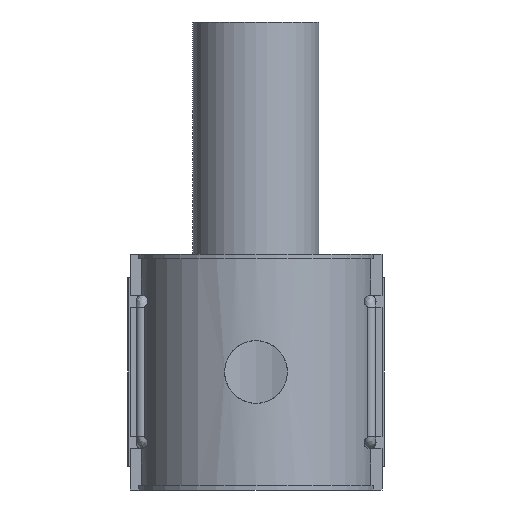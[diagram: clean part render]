
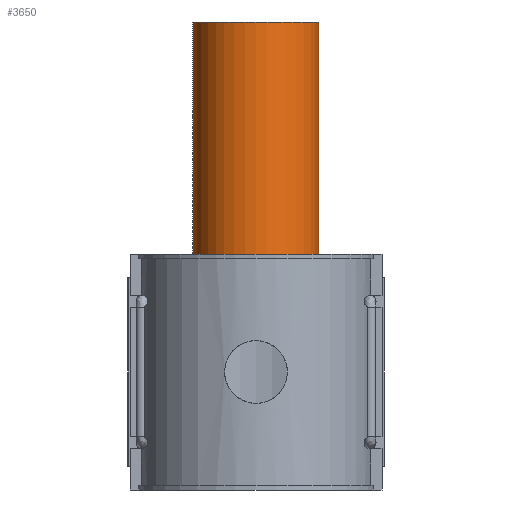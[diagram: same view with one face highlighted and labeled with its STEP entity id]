
A CAD part, front view. The second image highlights one B-rep face of the part: STEP entity #3650.
In plain terms, the highlighted cylindrical face has radius 31.5 mm (diameter 63 mm), a full revolution.
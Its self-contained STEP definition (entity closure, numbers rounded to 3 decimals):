
#340=CIRCLE('',#4015,31.5);
#341=CIRCLE('',#4016,31.5);
#342=CIRCLE('',#4017,31.5);
#343=CIRCLE('',#4018,31.5);
#551=FACE_OUTER_BOUND('',#778,.T.);
#778=EDGE_LOOP('',(#3380,#3381,#3382,#3383,#3384,#3385));
#1103=LINE('',#7440,#1424);
#1424=VECTOR('',#5029,31.5);
#1811=VERTEX_POINT('',#7435);
#1812=VERTEX_POINT('',#7436);
#1813=VERTEX_POINT('',#7439);
#1814=VERTEX_POINT('',#7441);
#2336=EDGE_CURVE('',#1811,#1812,#340,.T.);
#2337=EDGE_CURVE('',#1812,#1811,#341,.T.);
#2338=EDGE_CURVE('',#1812,#1813,#1103,.T.);
#2339=EDGE_CURVE('',#1813,#1814,#342,.T.);
#2340=EDGE_CURVE('',#1814,#1813,#343,.T.);
#3380=ORIENTED_EDGE('',*,*,#2336,.F.);
#3381=ORIENTED_EDGE('',*,*,#2337,.F.);
#3382=ORIENTED_EDGE('',*,*,#2338,.T.);
#3383=ORIENTED_EDGE('',*,*,#2339,.T.);
#3384=ORIENTED_EDGE('',*,*,#2340,.T.);
#3385=ORIENTED_EDGE('',*,*,#2338,.F.);
#3450=CYLINDRICAL_SURFACE('',#4014,31.5);
#3650=ADVANCED_FACE('',(#551),#3450,.T.);
#4014=AXIS2_PLACEMENT_3D('',#7434,#5023,#5024);
#4015=AXIS2_PLACEMENT_3D('',#7437,#5025,#5026);
#4016=AXIS2_PLACEMENT_3D('',#7438,#5027,#5028);
#4017=AXIS2_PLACEMENT_3D('',#7442,#5030,#5031);
#4018=AXIS2_PLACEMENT_3D('',#7443,#5032,#5033);
#5023=DIRECTION('center_axis',(0.,0.,1.));
#5024=DIRECTION('ref_axis',(0.,-1.,0.));
#5025=DIRECTION('center_axis',(0.,0.,1.));
#5026=DIRECTION('ref_axis',(1.,0.,0.));
#5027=DIRECTION('center_axis',(0.,0.,1.));
#5028=DIRECTION('ref_axis',(1.,0.,0.));
#5029=DIRECTION('',(0.,0.,-1.));
#5030=DIRECTION('center_axis',(0.,0.,1.));
#5031=DIRECTION('ref_axis',(1.,0.,0.));
#5032=DIRECTION('center_axis',(0.,0.,1.));
#5033=DIRECTION('ref_axis',(1.,0.,0.));
#7434=CARTESIAN_POINT('Origin',(0.,109.,87.5));
#7435=CARTESIAN_POINT('',(0.,77.5,175.));
#7436=CARTESIAN_POINT('',(0.,140.5,175.));
#7437=CARTESIAN_POINT('Origin',(0.,109.,175.));
#7438=CARTESIAN_POINT('Origin',(0.,109.,175.));
#7439=CARTESIAN_POINT('',(0.,140.5,0.));
#7440=CARTESIAN_POINT('',(0.,140.5,87.5));
#7441=CARTESIAN_POINT('',(0.,77.5,0.));
#7442=CARTESIAN_POINT('Origin',(0.,109.,0.));
#7443=CARTESIAN_POINT('Origin',(0.,109.,0.));
